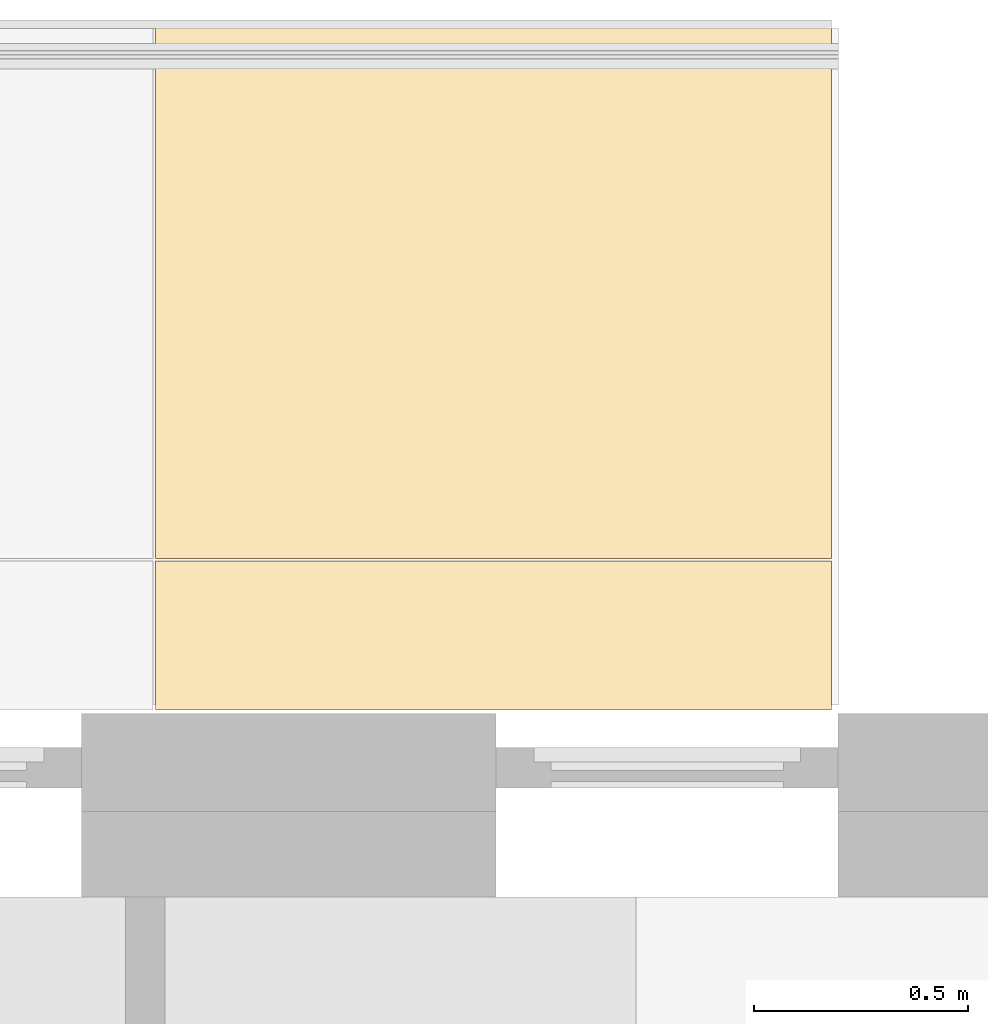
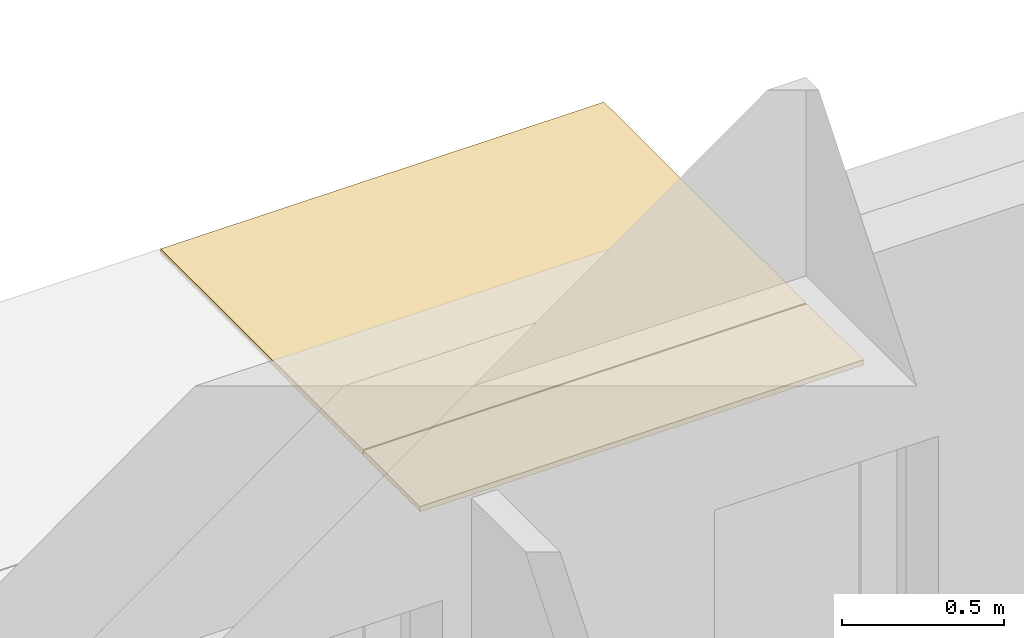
# One storey, part 14 of 68: 2 coverings.
"""IFC2X3 building model written with IfcOpenShell, lengths in millimetres."""

from ifc_helpers import new_model, entity, si_unit, converted_unit, direction, frame, frame_2d, origin, place, context, subcontext, project, spatial, rectangle, extrude, material, layer, layer_set, layer_usage, type_object, element, save


model = new_model("IFC2X3")

# Units and contexts
model_context = context("Model", 3, precision=0.01, world=origin(), true_north=direction((6.123233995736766e-17, 1.0)))
plan_context = context("Plan", 3, precision=0.01, world=origin(), true_north=direction((6.123233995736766e-17, 1.0)))
body_context = subcontext(model_context, "Body", "Model", "MODEL_VIEW")
ifc_project = project(units=[si_unit("LENGTHUNIT", "METRE", prefix="MILLI"), converted_unit("PLANEANGLEUNIT", "DEGREE", entity("IfcPlaneAngleMeasure", 0.017453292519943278), si_unit("PLANEANGLEUNIT", "RADIAN"), dimensions=[0, 0, 0, 0, 0, 0, 0]), si_unit("AREAUNIT", "SQUARE_METRE")], contexts=[model_context, plan_context])

# Site, building, storey
site_placement = place(None, origin())
site = spatial("IfcSite", under=ifc_project, at=site_placement, Name="Default", CompositionType="ELEMENT")
building_placement = place(site_placement, origin())
building = spatial("IfcBuilding", under=site, at=building_placement, CompositionType="ELEMENT")
storey_placement = place(building_placement, frame((0.0, 0.0, 6295.0)))
storey = spatial("IfcBuildingStorey", under=building, at=storey_placement, Name="3K", CompositionType="ELEMENT", Elevation=6294.999999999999)

# Coverings
ifc_material_1 = material(Name="_K. Õhk. Roov. Fassaadikatte alusroov. Horisontaalne. 25 mm")
ifc_layer_1 = layer(ifc_material_1, 16.0)
ifc_material_2 = material(Name="_K. Välisviimistlus. Alumiinium-komposiitplaat")
ifc_layer_2 = layer(ifc_material_2, 4.0)
ifc_layer_set = layer_set([ifc_layer_1, ifc_layer_2], Name="Compound Ceiling:Valge rõdud")
ifc_layer_usage_1 = layer_usage(ifc_layer_set, "AXIS3", "NEGATIVE", 20.0)
covering_type = type_object("IfcCoveringType", Name="Compound Ceiling:Valge rõdud", PredefinedType="CEILING")
covering_1_placement = place(storey_placement, frame((6627.7082942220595, 16192.0, 2407.499999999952)))
element("IfcCovering", 1, at=covering_1_placement, inside=storey, type_object=covering_type, material=ifc_layer_usage_1, Name="Compound Ceiling:Valge rõdud", ObjectType="Compound Ceiling:Valge rõdud", PredefinedType="CEILING", context=body_context, shape_type="SweptSolid", body=[
    extrude(rectangle(XDim=1249.9999999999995, YDim=1582.2917057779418, at=frame_2d((1.0800249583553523e-12, -1.1368683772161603e-12), x_axis=(1.0, 0.0))), frame((791.1458528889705, 625.0, 0.0), z_axis=(0.0, 0.0, 1.0), x_axis=(0.0, 1.0, 0.0)), (0.0, 0.0, 1.0), 19.999999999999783),
])
ifc_layer_usage_2 = layer_usage(ifc_layer_set, "AXIS3", "NEGATIVE", 20.0)
covering_2_placement = place(storey_placement, frame((6627.708294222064, 15838.0, 2407.499999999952)))
element("IfcCovering", 2, at=covering_2_placement, inside=storey, type_object=covering_type, material=ifc_layer_usage_2, Name="Compound Ceiling:Valge rõdud", ObjectType="Compound Ceiling:Valge rõdud", PredefinedType="CEILING", context=body_context, shape_type="SweptSolid", body=[
    extrude(rectangle(XDim=348.9999999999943, YDim=1582.291705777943, at=frame_2d((0.0, -5.115907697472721e-13), x_axis=(1.0, 0.0))), frame((791.1458528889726, 174.49999999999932, 0.0), z_axis=(0.0, 0.0, 1.0), x_axis=(0.0, 1.0, 0.0)), (0.0, 0.0, 1.0), 19.999999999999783),
])

save(model, "model.ifc")
